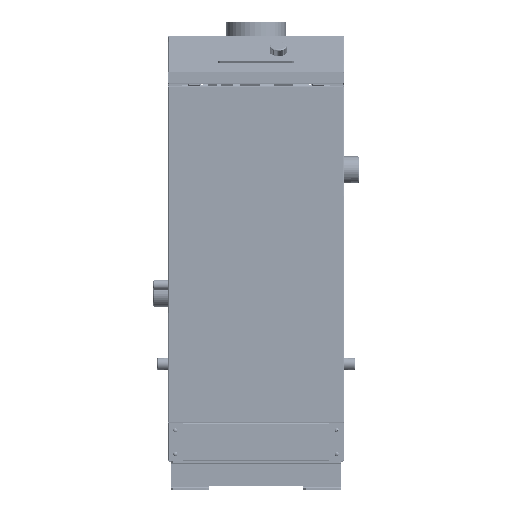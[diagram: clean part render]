
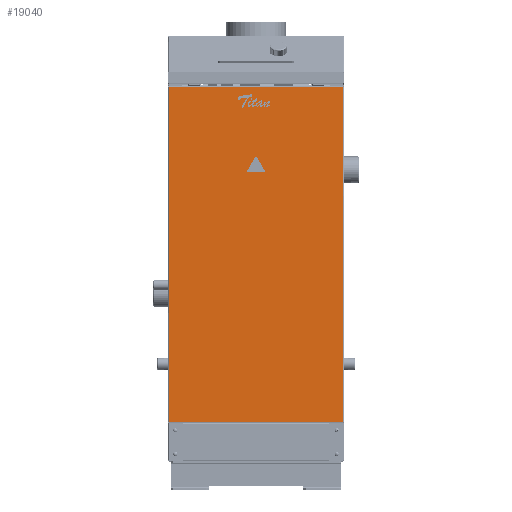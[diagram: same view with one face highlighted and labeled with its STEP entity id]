
A CAD part, top view. The second image highlights one B-rep face of the part: STEP entity #19040.
In plain terms, the highlighted planar face has unit normal (0, 0, 1) as drawn and (0, 1, 0) by its records, which use the part's own axes.
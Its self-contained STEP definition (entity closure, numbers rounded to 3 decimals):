
#19040=ADVANCED_FACE('',(#53942),#53944,.T.);
#53942=FACE_BOUND('',#53943,.T.);
#53943=EDGE_LOOP('',(#80306,#80307,#80308,#80309));
#53944=PLANE('',#53945);
#53945=AXIS2_PLACEMENT_3D('',#53946,#53947,#53948);
#53946=CARTESIAN_POINT('',(-0.,1.,0.));
#53947=DIRECTION('',(0.,1.,0.));
#53948=DIRECTION('',(-1.,0.,0.));
#80306=ORIENTED_EDGE('',*,*,#94803,.T.);
#80307=ORIENTED_EDGE('',*,*,#94824,.T.);
#80308=ORIENTED_EDGE('',*,*,#94827,.T.);
#80309=ORIENTED_EDGE('',*,*,#94833,.T.);
#94803=EDGE_CURVE('',#110928,#110897,#110938,.T.);
#94824=EDGE_CURVE('',#110897,#110894,#110968,.T.);
#94827=EDGE_CURVE('',#110894,#110920,#110972,.T.);
#94833=EDGE_CURVE('',#110920,#110928,#110980,.T.);
#110894=VERTEX_POINT('',#170325);
#110897=VERTEX_POINT('',#170353);
#110920=VERTEX_POINT('',#170450);
#110928=VERTEX_POINT('',#170489);
#110938=LINE('',#170555,#170556);
#110968=LINE('',#170629,#170630);
#110972=LINE('',#170639,#170640);
#110980=LINE('',#170659,#170660);
#170325=CARTESIAN_POINT('',(-183.,1.,353.5));
#170353=CARTESIAN_POINT('',(-183.,1.,-353.5));
#170450=CARTESIAN_POINT('',(183.,1.,353.5));
#170489=CARTESIAN_POINT('',(183.,1.,-353.5));
#170555=CARTESIAN_POINT('',(183.,1.,-353.5));
#170556=VECTOR('',#170557,1.);
#170557=DIRECTION('',(-1.,0.,0.));
#170629=CARTESIAN_POINT('',(-183.,1.,-353.5));
#170630=VECTOR('',#170631,1.);
#170631=DIRECTION('',(0.,0.,1.));
#170639=CARTESIAN_POINT('',(-183.,1.,353.5));
#170640=VECTOR('',#170641,1.);
#170641=DIRECTION('',(1.,0.,0.));
#170659=CARTESIAN_POINT('',(183.,1.,353.5));
#170660=VECTOR('',#170661,1.);
#170661=DIRECTION('',(0.,0.,-1.));
